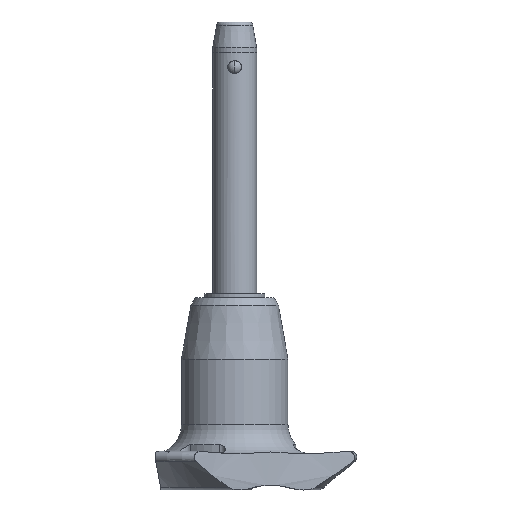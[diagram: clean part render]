
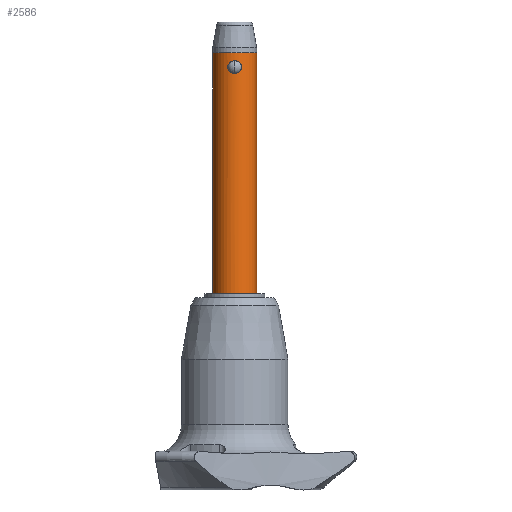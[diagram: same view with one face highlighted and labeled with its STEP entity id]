
A CAD part, front view. The second image highlights one B-rep face of the part: STEP entity #2586.
In plain terms, the highlighted cylindrical face has radius 3 mm (diameter 6 mm), a partial arc.
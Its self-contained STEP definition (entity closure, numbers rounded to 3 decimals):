
#33 = CARTESIAN_POINT ( 'NONE',  ( 0.459, -2.967, 0.101 ) ) ;
#63 = DIRECTION ( 'NONE',  ( 0., 0., 1. ) ) ;
#207 = CARTESIAN_POINT ( 'NONE',  ( -0.461, -2.967, 1.63 ) ) ;
#245 = CARTESIAN_POINT ( 'NONE',  ( -3., 0., 2.8 ) ) ;
#421 = CARTESIAN_POINT ( 'NONE',  ( 3., 0., -30. ) ) ;
#427 = CARTESIAN_POINT ( 'NONE',  ( -0.118, -3., 0. ) ) ;
#436 = ORIENTED_EDGE ( 'NONE', *, *, #2103, .T. ) ;
#437 = EDGE_LOOP ( 'NONE', ( #2626, #929, #436, #1330 ) ) ;
#439 = CARTESIAN_POINT ( 'NONE',  ( 0.461, -2.966, 1.63 ) ) ;
#464 = CARTESIAN_POINT ( 'NONE',  ( -0.74, -2.909, 0.318 ) ) ;
#469 = CIRCLE ( 'NONE', #1229, 3. ) ;
#479 = CARTESIAN_POINT ( 'NONE',  ( 0.91, -2.859, 0.626 ) ) ;
#526 = VERTEX_POINT ( 'NONE', #2445 ) ;
#535 = LINE ( 'NONE', #2092, #2292 ) ;
#543 = LINE ( 'NONE', #421, #1793 ) ;
#575 = EDGE_CURVE ( 'NONE', #2278, #1361, #469, .T. ) ;
#629 = CARTESIAN_POINT ( 'NONE',  ( 0.238, -2.993, 0.021 ) ) ;
#642 = CARTESIAN_POINT ( 'NONE',  ( 0.564, -2.948, 1.57 ) ) ;
#652 = CARTESIAN_POINT ( 'NONE',  ( -0.739, -2.909, 1.414 ) ) ;
#662 = CARTESIAN_POINT ( 'NONE',  ( -0.937, -2.85, 0.749 ) ) ;
#678 = CARTESIAN_POINT ( 'NONE',  ( -0.238, -2.993, 0.021 ) ) ;
#698 = VERTEX_POINT ( 'NONE', #1723 ) ;
#783 = EDGE_CURVE ( 'NONE', #698, #1948, #1113, .T. ) ;
#852 = AXIS2_PLACEMENT_3D ( 'NONE', #935, #2692, #1817 ) ;
#853 = CARTESIAN_POINT ( 'NONE',  ( 0.12, -3., 1.732 ) ) ;
#872 = EDGE_CURVE ( 'NONE', #1948, #698, #947, .T. ) ;
#878 = CARTESIAN_POINT ( 'NONE',  ( -0.12, -3., 1.732 ) ) ;
#890 = CARTESIAN_POINT ( 'NONE',  ( 0.937, -2.85, 0.744 ) ) ;
#905 = FACE_OUTER_BOUND ( 'NONE', #437, .T. ) ;
#929 = ORIENTED_EDGE ( 'NONE', *, *, #1338, .F. ) ;
#935 = CARTESIAN_POINT ( 'NONE',  ( 0., 0., -30. ) ) ;
#937 = CARTESIAN_POINT ( 'NONE',  ( 0., -3., 1.732 ) ) ;
#947 = B_SPLINE_CURVE_WITH_KNOTS ( 'NONE', 3,
 ( #1748, #878, #1801, #207, #1484, #652, #2600, #1735, #1059, #662, #2013, #1508, #464, #1922, #1524, #678, #427, #2371 ),
 .UNSPECIFIED., .F., .F.,
 ( 4, 2, 2, 2, 2, 2, 2, 2, 4 ),
 ( 0., 0., 0.001, 0.001, 0.001, 0.002, 0.002, 0.002, 0.003 ),
 .UNSPECIFIED. ) ;
#957 = EDGE_LOOP ( 'NONE', ( #1549, #1825 ) ) ;
#1008 = DIRECTION ( 'NONE',  ( 0., 0., 1. ) ) ;
#1016 = DIRECTION ( 'NONE',  ( 0., 0., 1. ) ) ;
#1059 = CARTESIAN_POINT ( 'NONE',  ( -0.937, -2.85, 0.986 ) ) ;
#1071 = CARTESIAN_POINT ( 'NONE',  ( 0.74, -2.909, 1.414 ) ) ;
#1108 = CARTESIAN_POINT ( 'NONE',  ( 0., -3., 1.732 ) ) ;
#1113 = B_SPLINE_CURVE_WITH_KNOTS ( 'NONE', 3,
 ( #2141, #1724, #629, #33, #1498, #2152, #2361, #479, #890, #1313, #2163, #2784, #1071, #642, #439, #1284, #853, #937 ),
 .UNSPECIFIED., .F., .F.,
 ( 4, 2, 2, 2, 2, 2, 2, 2, 4 ),
 ( 0.003, 0.003, 0.004, 0.004, 0.004, 0.005, 0.005, 0.005, 0.006 ),
 .UNSPECIFIED. ) ;
#1229 = AXIS2_PLACEMENT_3D ( 'NONE', #2249, #2058, #2720 ) ;
#1284 = CARTESIAN_POINT ( 'NONE',  ( 0.238, -2.993, 1.712 ) ) ;
#1313 = CARTESIAN_POINT ( 'NONE',  ( 0.937, -2.85, 0.985 ) ) ;
#1330 = ORIENTED_EDGE ( 'NONE', *, *, #575, .F. ) ;
#1337 = CYLINDRICAL_SURFACE ( 'NONE', #1482, 3. ) ;
#1338 = EDGE_CURVE ( 'NONE', #1375, #526, #1561, .T. ) ;
#1350 = DIRECTION ( 'NONE',  ( 1., 0., 0. ) ) ;
#1361 = VERTEX_POINT ( 'NONE', #2677 ) ;
#1369 = EDGE_CURVE ( 'NONE', #526, #2278, #535, .T. ) ;
#1375 = VERTEX_POINT ( 'NONE', #2299 ) ;
#1482 = AXIS2_PLACEMENT_3D ( 'NONE', #1526, #63, #1350 ) ;
#1484 = CARTESIAN_POINT ( 'NONE',  ( -0.563, -2.948, 1.57 ) ) ;
#1498 = CARTESIAN_POINT ( 'NONE',  ( 0.563, -2.948, 0.162 ) ) ;
#1508 = CARTESIAN_POINT ( 'NONE',  ( -0.812, -2.889, 0.414 ) ) ;
#1524 = CARTESIAN_POINT ( 'NONE',  ( -0.46, -2.967, 0.101 ) ) ;
#1526 = CARTESIAN_POINT ( 'NONE',  ( 0., 0., -30. ) ) ;
#1549 = ORIENTED_EDGE ( 'NONE', *, *, #872, .F. ) ;
#1561 = CIRCLE ( 'NONE', #852, 3. ) ;
#1723 = CARTESIAN_POINT ( 'NONE',  ( 0., -3., 0. ) ) ;
#1724 = CARTESIAN_POINT ( 'NONE',  ( 0.118, -3., 0. ) ) ;
#1735 = CARTESIAN_POINT ( 'NONE',  ( -0.91, -2.859, 1.105 ) ) ;
#1748 = CARTESIAN_POINT ( 'NONE',  ( 0., -3., 1.732 ) ) ;
#1793 = VECTOR ( 'NONE', #1016, 1000. ) ;
#1801 = CARTESIAN_POINT ( 'NONE',  ( -0.238, -2.993, 1.712 ) ) ;
#1817 = DIRECTION ( 'NONE',  ( 1., 0., 0. ) ) ;
#1825 = ORIENTED_EDGE ( 'NONE', *, *, #783, .F. ) ;
#1922 = CARTESIAN_POINT ( 'NONE',  ( -0.564, -2.948, 0.162 ) ) ;
#1948 = VERTEX_POINT ( 'NONE', #1108 ) ;
#1974 = FACE_BOUND ( 'NONE', #957, .T. ) ;
#2013 = CARTESIAN_POINT ( 'NONE',  ( -0.911, -2.859, 0.63 ) ) ;
#2058 = DIRECTION ( 'NONE',  ( 0., 0., 1. ) ) ;
#2092 = CARTESIAN_POINT ( 'NONE',  ( -3., 0., -30. ) ) ;
#2103 = EDGE_CURVE ( 'NONE', #1375, #1361, #543, .T. ) ;
#2141 = CARTESIAN_POINT ( 'NONE',  ( 0., -3., 0. ) ) ;
#2152 = CARTESIAN_POINT ( 'NONE',  ( 0.738, -2.909, 0.317 ) ) ;
#2163 = CARTESIAN_POINT ( 'NONE',  ( 0.911, -2.859, 1.103 ) ) ;
#2249 = CARTESIAN_POINT ( 'NONE',  ( 0., 0., 2.8 ) ) ;
#2278 = VERTEX_POINT ( 'NONE', #245 ) ;
#2292 = VECTOR ( 'NONE', #1008, 1000. ) ;
#2299 = CARTESIAN_POINT ( 'NONE',  ( 3., 0., -30. ) ) ;
#2361 = CARTESIAN_POINT ( 'NONE',  ( 0.811, -2.889, 0.412 ) ) ;
#2371 = CARTESIAN_POINT ( 'NONE',  ( 0., -3., 0. ) ) ;
#2445 = CARTESIAN_POINT ( 'NONE',  ( -3., 0., -30. ) ) ;
#2586 = ADVANCED_FACE ( 'NONE', ( #905, #1974 ), #1337, .T. ) ;
#2600 = CARTESIAN_POINT ( 'NONE',  ( -0.811, -2.889, 1.319 ) ) ;
#2626 = ORIENTED_EDGE ( 'NONE', *, *, #1369, .F. ) ;
#2677 = CARTESIAN_POINT ( 'NONE',  ( 3., 0., 2.8 ) ) ;
#2692 = DIRECTION ( 'NONE',  ( 0., 0., -1. ) ) ;
#2720 = DIRECTION ( 'NONE',  ( 1., 0., 0. ) ) ;
#2784 = CARTESIAN_POINT ( 'NONE',  ( 0.812, -2.888, 1.317 ) ) ;
